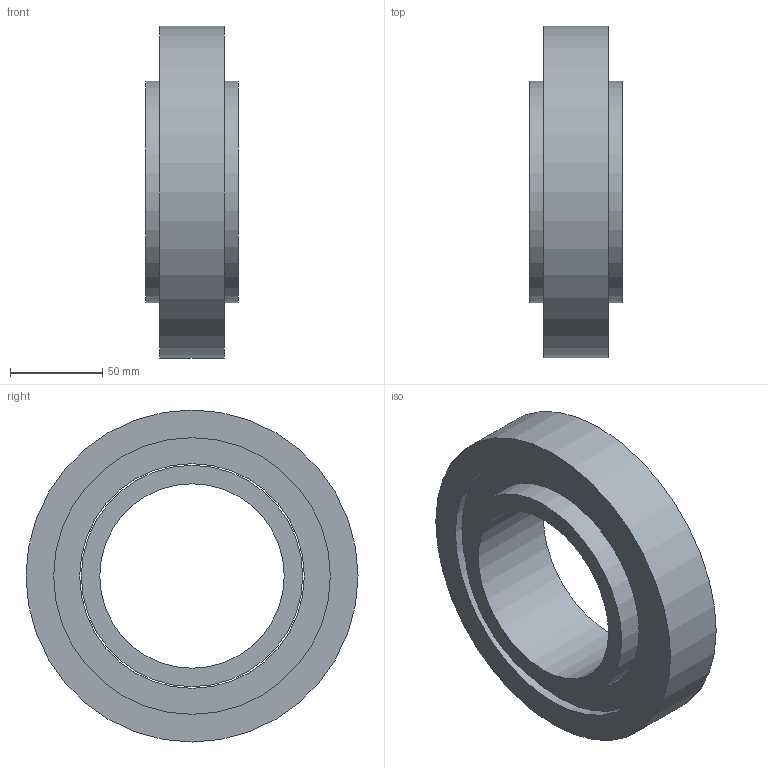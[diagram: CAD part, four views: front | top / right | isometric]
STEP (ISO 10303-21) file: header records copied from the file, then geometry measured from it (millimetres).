
FILE_DESCRIPTION(('Open CASCADE Model'),'2;1');
FILE_NAME('Open CASCADE Shape Model','2026-09-14T16:31:49',('Author'),( 'Open CASCADE'),'Open CASCADE STEP processor 7.8','Open CASCADE 7.8' ,'Unknown');
FILE_SCHEMA(('AUTOMOTIVE_DESIGN { 1 0 10303 214 1 1 1 1 }'));
Length unit declared in the file: millimetre
Products named in the file (4): Open CASCADE STEP translator 7.8 2; Open CASCADE STEP translator 7.8 2.1; Open CASCADE STEP translator 7.8 2.2; Open CASCADE STEP translator 7.8 2.3
Assembly tree (3 placements, depth 2):
  Open CASCADE STEP translator 7.8 2
    Open CASCADE STEP translator 7.8 2.1
    Open CASCADE STEP translator 7.8 2.2
    Open CASCADE STEP translator 7.8 2.3
Bounding box: 50 x 180 x 180 mm (x, y, z)
Volume: 595425.3 mm3; surface area: 126692.2 mm2
Topology: 3 solids, 3 shells, 12 faces, 18 edges, 12 vertices
Faces by surface type: cylinder 6, plane 6
Full cylindrical faces by diameter (mm): 100 x1, 120 x1, 121.8 x1, 150 x2, 180 x1
Entity records: 580 total; most frequent: DIRECTION 98, CARTESIAN_POINT 82, ORIENTED_EDGE 36, PCURVE 36, DEFINITIONAL_REPRESENTATION 36, LINE 30, VECTOR 30, AXIS2_PLACEMENT_3D 28
